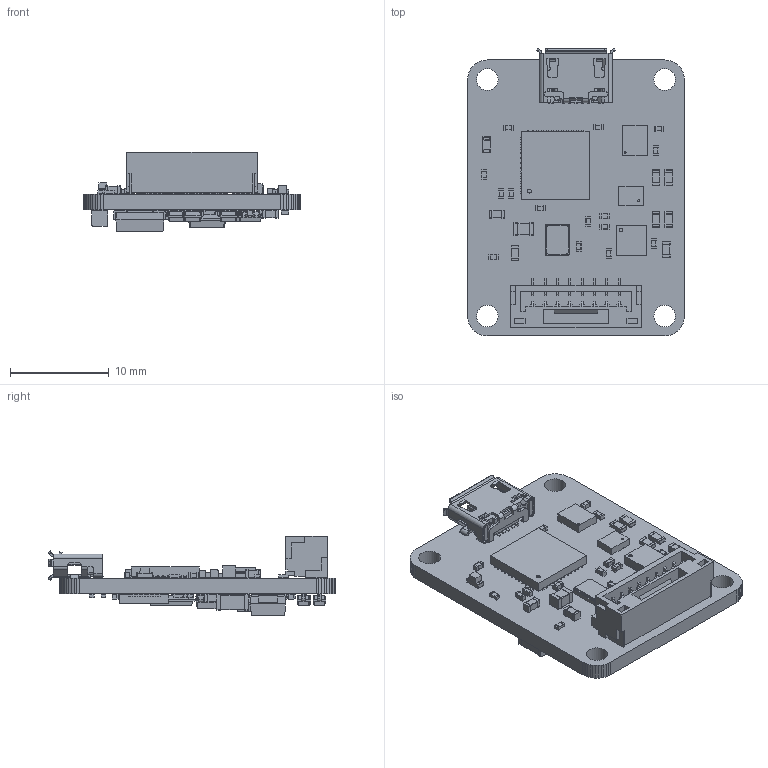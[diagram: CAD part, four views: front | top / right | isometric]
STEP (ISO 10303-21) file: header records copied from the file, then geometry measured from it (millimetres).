
FILE_DESCRIPTION(('KiCad electronic assembly'),'2;1');
FILE_NAME('lpms_curs3.step','2024-08-20T11:29:59',('Pcbnew'),('Kicad'), 'Open CASCADE STEP processor 7.7','KiCad to STEP converter','Unknown' );
FILE_SCHEMA(('AUTOMOTIVE_DESIGN { 1 0 10303 214 1 1 1 1 }'));
Length unit declared in the file: millimetre
Products named in the file (44): lpms_curs3 1; 10118194-0001LF; SOLID; JST_GH_BM08B-GHS-TBT_1x08-1MP_P1.25mm_Vertical; C0603; C0402; L_0805_2012Metric; LED_0603_1608Metric; R0402; R_0603_1608Metric; R0603; QFN-48-1EP_7x7mm_P0.5mm_EP5.6x5.6mm; LGA-14_3x2.5x0.86; LGA-16_3x3mm_P0.5mm; Bosch_LGA-8_2x2.5mm_P0.65mm_ClockwisePinNumbering; Crystal_SMD_3225-4Pin_3.2x2.5mm; SOD-323; SOT-23-5; TSSOP-16; SOIC-8_3.9x4.9mm_P1.27mm; QFN-28-1EP_5x5mm_P0.5mm_EP3.35x3.35mm; C1206; SMB; lpms_curs3 PCB
Assembly tree (102 placements, depth 3):
  lpms_curs3 1
    10118194-0001LF
      SOLID
    JST_GH_BM08B-GHS-TBT_1x08-1MP_P1.25mm_Vertical
      SOLID
    C0603  x6
      SOLID
    C0402  x26
      SOLID
    L_0805_2012Metric
      SOLID
    LED_0603_1608Metric
      SOLID
    R0402  x15
      SOLID
    R_0603_1608Metric  x7
      SOLID
    R0603  x7
      SOLID
    QFN-48-1EP_7x7mm_P0.5mm_EP5.6x5.6mm
      SOLID
    LGA-14_3x2.5x0.86
      SOLID
    LGA-16_3x3mm_P0.5mm
      SOLID
    Bosch_LGA-8_2x2.5mm_P0.65mm_ClockwisePinNumbering
      SOLID
    Crystal_SMD_3225-4Pin_3.2x2.5mm
      SOLID
    SOD-323  x4
      SOLID
    SOT-23-5
      SOLID
    TSSOP-16
      SOLID
    SOIC-8_3.9x4.9mm_P1.27mm
      SOLID
    QFN-28-1EP_5x5mm_P0.5mm_EP3.35x3.35mm
      SOLID
    C1206
      SOLID
    SMB
      SOLID
    lpms_curs3 PCB
Bounding box: 22 x 29.2 x 8.03 mm (x, y, z)
Volume: 1351.7 mm3; surface area: 2951.9 mm2
Topology: 81 solids, 81 shells, 4536 faces, 12180 edges, 7914 vertices
Faces by surface type: plane 3195, cylinder 1101, bspline 214, extrusion 10, cone 8, torus 4, sphere 4
Full cylindrical faces by diameter (mm): 0.185 x1, 0.2 x1, 0.35 x1, 0.4 x1, 0.5 x2, 0.6 x1, 2.2 x4
Entity records: 211594 total; most frequent: CARTESIAN_POINT 42728, DIRECTION 28254, VECTOR 20263, LINE 20253, ORIENTED_EDGE 15560, PCURVE 15560, DEFINITIONAL_REPRESENTATION 15560, EDGE_CURVE 7780
